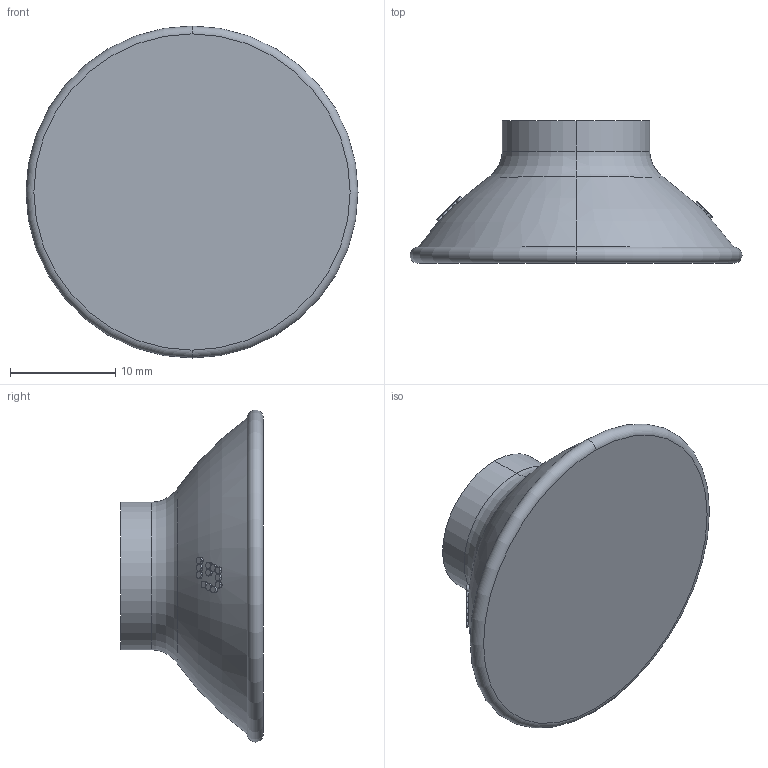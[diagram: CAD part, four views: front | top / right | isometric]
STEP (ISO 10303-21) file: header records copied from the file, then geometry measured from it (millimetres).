
FILE_DESCRIPTION (( 'STEP AP203' ), '1' );
FILE_NAME ('2322155-AS02.STEP', '2020-12-03T11:14:04', ( '' ), ( '' ), 'SwSTEP 2.0', 'SolidWorks 2020', '' );
FILE_SCHEMA (( 'CONFIG_CONTROL_DESIGN' ));
Length unit declared in the file: millimetre
Products named in the file (2): Copia di 2322155-AS01^2322155-AS02; 2322155-AS02
Assembly tree (1 placements, depth 2):
  2322155-AS02
    Copia di 2322155-AS01^2322155-AS02
Bounding box: 31.5 x 13.5 x 31.5 mm (x, y, z)
Volume: 5111.9 mm3; surface area: 2068.2 mm2
Topology: 1 solids, 1 shells, 75 faces, 168 edges, 110 vertices
Faces by surface type: cylinder 26, bspline 23, plane 19, torus 7
Entity records: 3676 total; most frequent: CARTESIAN_POINT 1978, ORIENTED_EDGE 336, DIRECTION 247, EDGE_CURVE 168, VERTEX_POINT 110, AXIS2_PLACEMENT_3D 96, EDGE_LOOP 90, ADVANCED_FACE 75
